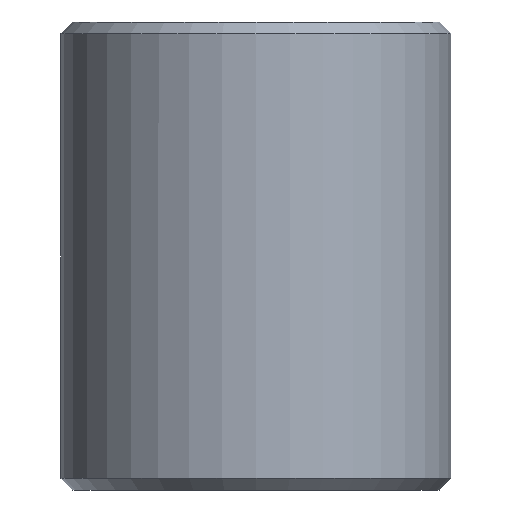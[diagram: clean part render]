
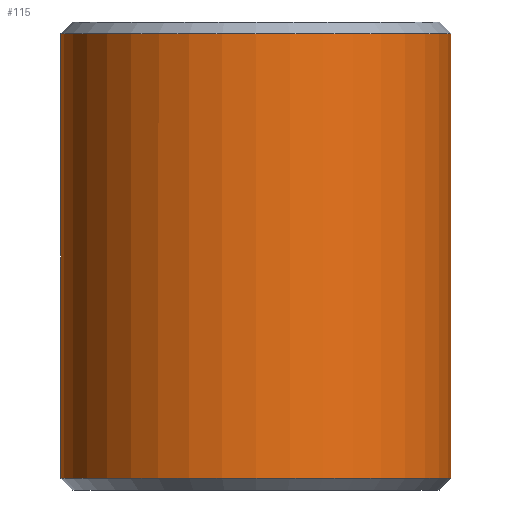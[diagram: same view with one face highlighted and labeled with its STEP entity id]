
A CAD part, front view. The second image highlights one B-rep face of the part: STEP entity #115.
In plain terms, the highlighted cylindrical face has radius 50 mm (diameter 100 mm), a partial arc.
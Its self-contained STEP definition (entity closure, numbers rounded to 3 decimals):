
#28 = VERTEX_POINT ( 'NONE', #448 ) ;
#45 = DIRECTION ( 'NONE',  ( 1., 0., 0. ) ) ;
#53 = CARTESIAN_POINT ( 'NONE',  ( -50., 0., 57. ) ) ;
#72 = DIRECTION ( 'NONE',  ( 0., 0., -1. ) ) ;
#73 = CYLINDRICAL_SURFACE ( 'NONE', #97, 50. ) ;
#91 = VECTOR ( 'NONE', #434, 1000. ) ;
#94 = ORIENTED_EDGE ( 'NONE', *, *, #446, .T. ) ;
#95 = EDGE_CURVE ( 'NONE', #410, #28, #309, .T. ) ;
#97 = AXIS2_PLACEMENT_3D ( 'NONE', #132, #274, #413 ) ;
#104 = DIRECTION ( 'NONE',  ( 0., 0., -1. ) ) ;
#110 = CARTESIAN_POINT ( 'NONE',  ( 0., 0., 57. ) ) ;
#115 = ADVANCED_FACE ( 'NONE', ( #247 ), #73, .T. ) ;
#117 = DIRECTION ( 'NONE',  ( 0., 0., 1. ) ) ;
#127 = VERTEX_POINT ( 'NONE', #250 ) ;
#132 = CARTESIAN_POINT ( 'NONE',  ( 0., 0., 60. ) ) ;
#137 = CARTESIAN_POINT ( 'NONE',  ( -50., 0., 60. ) ) ;
#157 = LINE ( 'NONE', #428, #91 ) ;
#161 = ORIENTED_EDGE ( 'NONE', *, *, #95, .T. ) ;
#163 = CIRCLE ( 'NONE', #436, 50. ) ;
#205 = CIRCLE ( 'NONE', #338, 50. ) ;
#234 = ORIENTED_EDGE ( 'NONE', *, *, #379, .F. ) ;
#235 = ORIENTED_EDGE ( 'NONE', *, *, #261, .T. ) ;
#247 = FACE_OUTER_BOUND ( 'NONE', #269, .T. ) ;
#250 = CARTESIAN_POINT ( 'NONE',  ( 50., 0., -57. ) ) ;
#261 = EDGE_CURVE ( 'NONE', #28, #127, #205, .T. ) ;
#269 = EDGE_LOOP ( 'NONE', ( #234, #94, #161, #235 ) ) ;
#271 = VERTEX_POINT ( 'NONE', #293 ) ;
#274 = DIRECTION ( 'NONE',  ( 0., 0., -1. ) ) ;
#293 = CARTESIAN_POINT ( 'NONE',  ( 50., 0., 57. ) ) ;
#301 = VECTOR ( 'NONE', #104, 1000. ) ;
#309 = LINE ( 'NONE', #137, #301 ) ;
#338 = AXIS2_PLACEMENT_3D ( 'NONE', #396, #117, #433 ) ;
#379 = EDGE_CURVE ( 'NONE', #271, #127, #157, .T. ) ;
#396 = CARTESIAN_POINT ( 'NONE',  ( 0., 0., -57. ) ) ;
#410 = VERTEX_POINT ( 'NONE', #53 ) ;
#413 = DIRECTION ( 'NONE',  ( -1., 0., 0. ) ) ;
#428 = CARTESIAN_POINT ( 'NONE',  ( 50., 0., 60. ) ) ;
#433 = DIRECTION ( 'NONE',  ( 1., 0., 0. ) ) ;
#434 = DIRECTION ( 'NONE',  ( 0., 0., -1. ) ) ;
#436 = AXIS2_PLACEMENT_3D ( 'NONE', #110, #72, #45 ) ;
#446 = EDGE_CURVE ( 'NONE', #271, #410, #163, .T. ) ;
#448 = CARTESIAN_POINT ( 'NONE',  ( -50., 0., -57. ) ) ;
